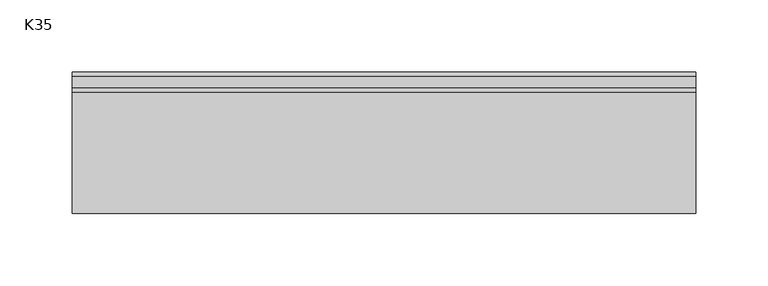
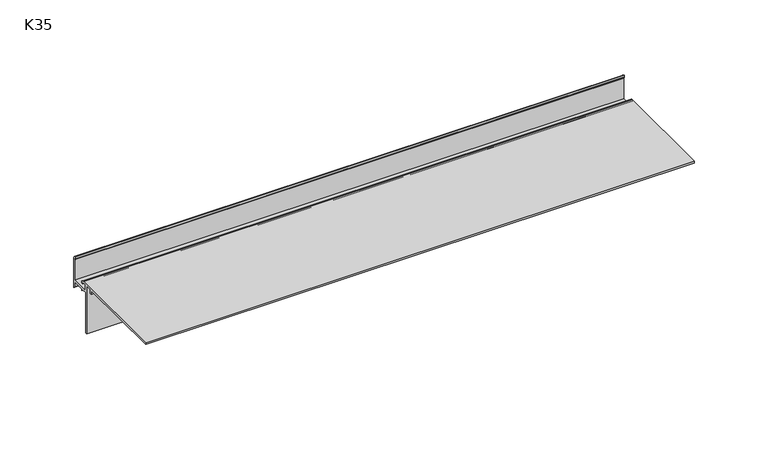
"""IFC4 building model written with IfcOpenShell, lengths in millimetres: proxy geometry, K35 Profil okapowy prosty z rynną : K35."""

from ifc_helpers import new_model, si_unit, point, frame, frame_2d, origin, place, context, project, spatial, polyline, circle_curve, trimmed, segment, composite_curve, outline, extrude, source, transform, mapped, element, save


def k35_f5893a44(model_context):
    return source(origin(), model_context, "Body", "SweptSolid", [
        extrude(outline(composite_curve([segment(trimmed(circle_curve(frame_2d((-0.4087938, -2.8812097)), 2.9102158), [point((0.0010677, 0.0))], [point((2.5010677, -2.8358001))], False, "CARTESIAN"), True, "CONTINUOUS"), segment(polyline([(2.5010677, -2.8358001), (2.5010677, -26.8), (1.0010677, -25.549015), (1.0010677, -21.1829113), (-8.5231229, -21.1829113), (-8.5231229, -22.7095005), (-10.049712, -21.1829113), (-13.5989323, -21.1829113), (-13.5989323, -54.7), (-15.0989323, -54.7), (-15.0989323, -14.9), (-20.0989323, -14.9), (-20.0989323, -17.8969711), (-21.5989323, -17.8969711), (-21.5989323, -14.9), (-95.0989323, -14.9), (-95.0989323, -13.5), (-11.0612599, -13.5)]), True, "CONTINUOUS"), segment(trimmed(circle_curve(frame_2d((-11.0612599, -16.1266316)), 2.6266316), [point((-11.0612599, -13.5))], [point((-8.4405044, -16.3022282))], False, "CARTESIAN"), True, "CONTINUOUS"), segment(polyline([(-8.4405044, -16.3022282), (-9.9435317, -16.3022282)]), True, "CONTINUOUS"), segment(trimmed(circle_curve(frame_2d((-11.3457599, -16.3022282)), 1.4022282), [point((-9.9435317, -16.3022282))], [point((-11.3457599, -14.9))], True, "CARTESIAN"), True, "CONTINUOUS"), segment(polyline([(-11.3457599, -14.9), (-13.1366439, -14.9), (-13.1366439, -19.6829113), (1.0010677, -19.6829113), (1.0010677, -2.8358001)]), True, "CONTINUOUS"), segment(trimmed(circle_curve(frame_2d((0.0010677, -2.8358001)), 1.0), [point((1.0010677, -2.8358001))], [point((0.0010677, -1.8358001))], True, "CARTESIAN"), True, "CONTINUOUS"), segment(polyline([(0.0010677, -1.8358001), (0.0010677, 0.0)]), True, "CONTINUOUS")], self_intersect=False)), frame((0.0, 0.0, 0.0), z_axis=(1.0, 0.0, 0.0), x_axis=(0.0, 1.0, 0.0)), (0.0, 0.0, 1.0), 430.200755),
    ])


if __name__ == "__main__":
    model = new_model("IFC4")
    model_context = context("Model", 3, world=origin())
    ifc_project = project(units=[si_unit("LENGTHUNIT", "METRE", prefix="MILLI")], contexts=[model_context])
    site = spatial("IfcSite", under=ifc_project)
    building = spatial("IfcBuilding", under=site)
    placement = place(None, origin())
    k35_shape = k35_f5893a44(model_context)
    element("IfcBuildingElementProxy", 1, Name="K35 Profil okapowy prosty z rynną : K35", ObjectType="K35 Profil okapowy prosty z rynną : K35", at=placement, inside=building, context=model_context, shape_type="MappedRepresentation", body=[
        mapped(k35_shape, transform((0.0, 0.0, 0.0), x_axis=(1.0, 0.0, 0.0), y_axis=(0.0, 1.0, 0.0), z_axis=(0.0, 0.0, 1.0))),
    ])
    save(model, "model.ifc")
